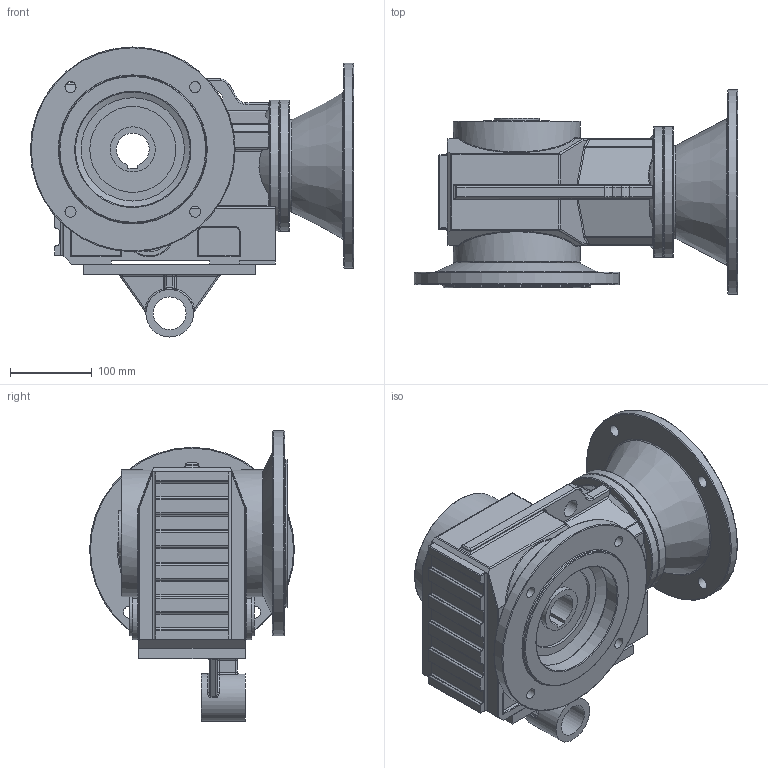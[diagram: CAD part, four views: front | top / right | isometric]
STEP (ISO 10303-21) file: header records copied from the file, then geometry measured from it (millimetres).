
FILE_DESCRIPTION((''),'2;1');
FILE_NAME('F:\PAWEŁ\ZLECENIA\2011 DualSystem\Przekładnie DK\001 Modele\DKAB60_\DK_60_STEP\DK_A_60_AF_AT_100-112_B5.stp','2012-06-26T18:54:05',('admin'),(''),'Autodesk Inventor 2009','Autodesk Inventor 2009','');
FILE_SCHEMA(('AUTOMOTIVE_DESIGN { 1 0 10303 214 1 1 1 1 }'));
Length unit declared in the file: millimetre
Products named in the file (5): DK_A_60_AF_AT_100-112_B5 (Poziom szczegółów1); DK_A_60; AT_60; AF_F_60; 100-112_B5_L90,5
Assembly tree (4 placements, depth 2):
  DK_A_60_AF_AT_100-112_B5 (Poziom szczegółów1)
    DK_A_60
    AT_60
    AF_F_60
    100-112_B5_L90,5
Bounding box: 394.5 x 250 x 354 mm (x, y, z)
Volume: 9282848.2 mm3; surface area: 696194.7 mm2
Topology: 4 solids, 4 shells, 509 faces, 1202 edges, 704 vertices
Faces by surface type: cylinder 198, plane 130, bspline 116, torus 45, sphere 12, cone 8
Full cylindrical faces by diameter (mm): 10.106 x8, 22 x1, 40 x1, 48 x1, 50 x1, 55 x1, 58 x1, 100 x1, 105 x1, 140 x1, 160 x2, 180 x2, 250 x2
Entity records: 18676 total; most frequent: CARTESIAN_POINT 7349, DIRECTION 2368, ORIENTED_EDGE 2234, EDGE_CURVE 1117, AXIS2_PLACEMENT_3D 940, VERTEX_POINT 692, EDGE_LOOP 617, FACE_OUTER_BOUND 509
